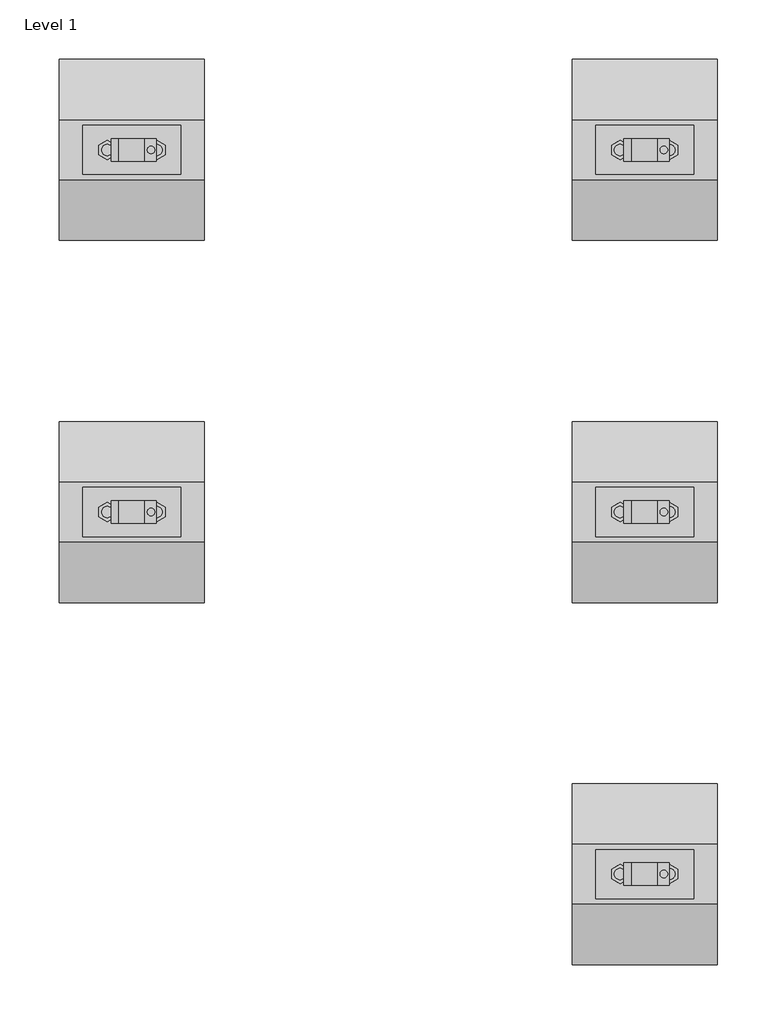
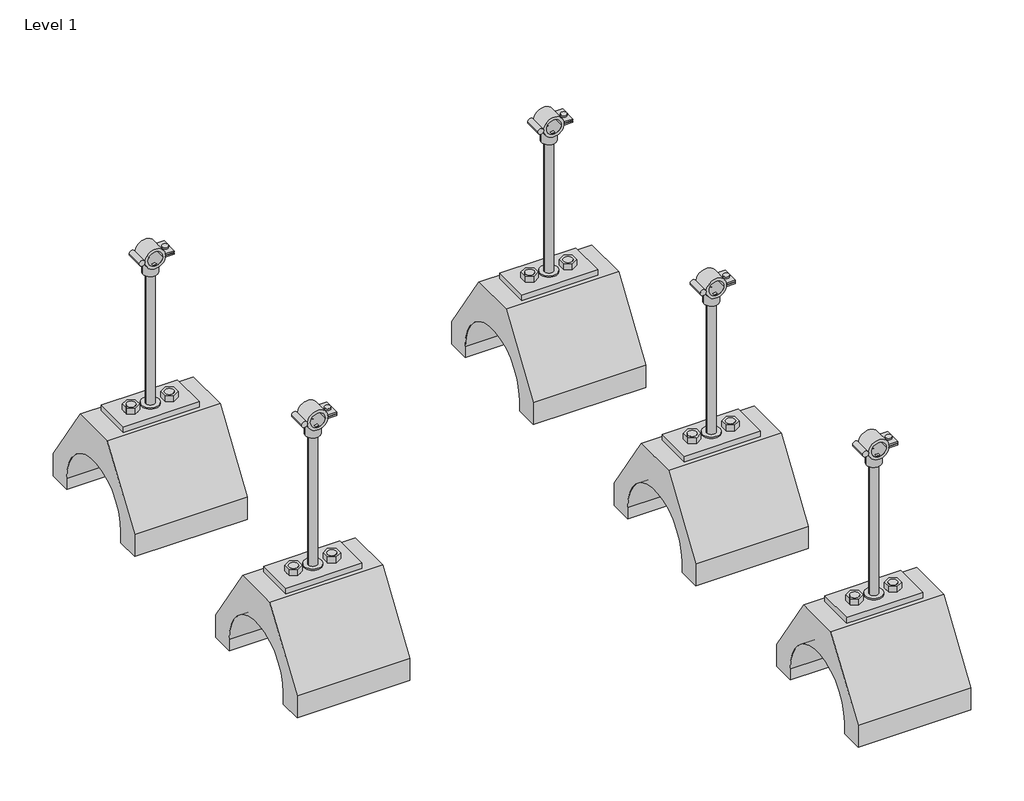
# One storey: 5 cable carrier fittings.
"""IFC4 building model written with IfcOpenShell, lengths in millimetres."""

from ifc_helpers import new_model, si_unit, origin, place, context, project, spatial, transform, mapped, element, save
from components import cable_carrier_fitting_e1969057

model = new_model("IFC4")

# Units and contexts
model_context = context("Model", 3, world=origin())
ifc_project = project(units=[si_unit("LENGTHUNIT", "METRE", prefix="MILLI")], contexts=[model_context])

# Site, building, storey
site = spatial("IfcSite", under=ifc_project)
building = spatial("IfcBuilding", under=site)
storey = spatial("IfcBuildingStorey", under=building, Name="Level 1", Elevation=0.0)

# Cable carrier fittings
placement = place(None, origin())
cable_carrier_fitting_shape = cable_carrier_fitting_e1969057(model_context)
element("IfcCableCarrierFitting", 1, ObjectType="eV_SU_Eaton_Dura-Blok_DBM : eV_SU_Eaton_Dura-Blok_DBM_Stainless", at=placement, inside=storey, context=model_context, shape_type="MappedRepresentation", body=[
    mapped(cable_carrier_fitting_shape, transform((-3339.7814982, 1875.6895393, 0.0), x_axis=(1.0, 0.0, 0.0), y_axis=(0.0, 1.0, 0.0), z_axis=(0.0, 0.0, 1.0))),
])
element("IfcCableCarrierFitting", 2, ObjectType="eV_SU_Eaton_Dura-Blok_DBM : eV_SU_Eaton_Dura-Blok_DBM_Stainless", at=placement, inside=storey, context=model_context, shape_type="MappedRepresentation", body=[
    mapped(cable_carrier_fitting_shape, transform((-3339.7814982, 1570.8895393, 0.0), x_axis=(1.0, 0.0, 0.0), y_axis=(0.0, 1.0, 0.0), z_axis=(0.0, 0.0, 1.0))),
])
element("IfcCableCarrierFitting", 3, ObjectType="eV_SU_Eaton_Dura-Blok_DBM : eV_SU_Eaton_Dura-Blok_DBM_Copper", at=placement, inside=storey, context=model_context, shape_type="MappedRepresentation", body=[
    mapped(cable_carrier_fitting_shape, transform((-2908.0585654, 1875.6895393, 0.0), x_axis=(1.0, 0.0, 0.0), y_axis=(0.0, 1.0, 0.0), z_axis=(0.0, 0.0, 1.0))),
])
element("IfcCableCarrierFitting", 4, ObjectType="eV_SU_Eaton_Dura-Blok_DBM : eV_SU_Eaton_Dura-Blok_DBM_Copper", at=placement, inside=storey, context=model_context, shape_type="MappedRepresentation", body=[
    mapped(cable_carrier_fitting_shape, transform((-2908.0585654, 1570.8895393, 0.0), x_axis=(1.0, 0.0, 0.0), y_axis=(0.0, 1.0, 0.0), z_axis=(0.0, 0.0, 1.0))),
])
element("IfcCableCarrierFitting", 5, ObjectType="eV_SU_Eaton_Dura-Blok_DBM : eV_SU_Eaton_Dura-Blok_DBM_Copper", at=placement, inside=storey, context=model_context, shape_type="MappedRepresentation", body=[
    mapped(cable_carrier_fitting_shape, transform((-2908.0585654, 1266.0895393, 0.0), x_axis=(1.0, 0.0, 0.0), y_axis=(0.0, 1.0, 0.0), z_axis=(0.0, 0.0, 1.0))),
])

save(model, "model.ifc")
